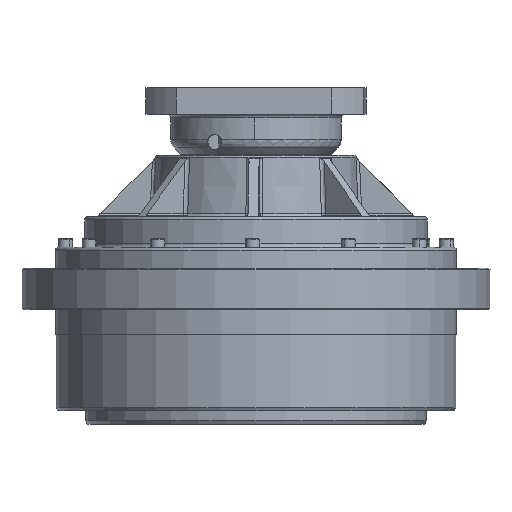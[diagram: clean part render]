
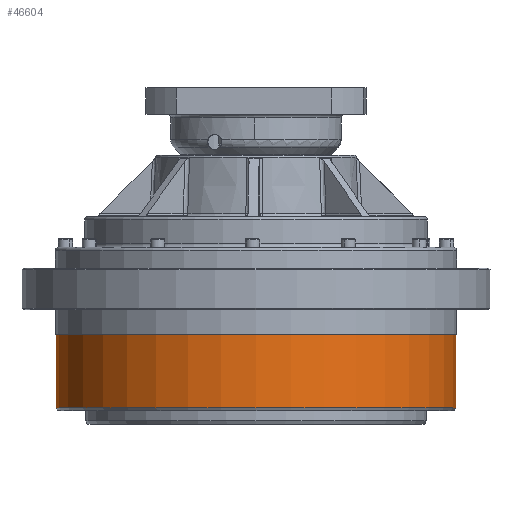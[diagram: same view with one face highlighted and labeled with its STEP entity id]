
A CAD part, front view. The second image highlights one B-rep face of the part: STEP entity #46604.
In plain terms, the highlighted cylindrical face has radius 119.65 mm (diameter 239.3 mm), a partial arc.
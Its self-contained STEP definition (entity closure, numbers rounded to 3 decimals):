
#5235 = DIRECTION ( 'NONE',  ( 1., 0., 0. ) ) ;
#10367 = ORIENTED_EDGE ( 'NONE', *, *, #84363, .F. ) ;
#12876 = CARTESIAN_POINT ( 'NONE',  ( 119.65, 0., -15. ) ) ;
#17663 = EDGE_LOOP ( 'NONE', ( #117883, #129248, #10367, #56061 ) ) ;
#18225 = VECTOR ( 'NONE', #77886, 1000. ) ;
#24031 = DIRECTION ( 'NONE',  ( 1., 0., 0. ) ) ;
#28377 = EDGE_CURVE ( 'NONE', #113989, #130192, #70719, .T. ) ;
#32839 = AXIS2_PLACEMENT_3D ( 'NONE', #43483, #133965, #24031 ) ;
#33649 = CIRCLE ( 'NONE', #88141, 119.65 ) ;
#35289 = VECTOR ( 'NONE', #138217, 1000. ) ;
#38630 = DIRECTION ( 'NONE',  ( 0., 0., 1. ) ) ;
#43483 = CARTESIAN_POINT ( 'NONE',  ( 0., 0., -15. ) ) ;
#46604 = ADVANCED_FACE ( 'NONE', ( #99846 ), #145080, .T. ) ;
#46977 = CIRCLE ( 'NONE', #72990, 119.65 ) ;
#49769 = CARTESIAN_POINT ( 'NONE',  ( 0., 0., -15. ) ) ;
#56061 = ORIENTED_EDGE ( 'NONE', *, *, #28377, .F. ) ;
#57962 = EDGE_CURVE ( 'NONE', #128583, #113989, #33649, .T. ) ;
#61089 = CARTESIAN_POINT ( 'NONE',  ( -119.65, 0., -15. ) ) ;
#63592 = DIRECTION ( 'NONE',  ( 1., 0., 0. ) ) ;
#64027 = VERTEX_POINT ( 'NONE', #135499 ) ;
#66010 = CARTESIAN_POINT ( 'NONE',  ( -119.65, 0., -15. ) ) ;
#66974 = CARTESIAN_POINT ( 'NONE',  ( 119.65, 0., -15. ) ) ;
#70719 = LINE ( 'NONE', #12876, #35289 ) ;
#72990 = AXIS2_PLACEMENT_3D ( 'NONE', #140028, #95578, #63592 ) ;
#73189 = EDGE_CURVE ( 'NONE', #128583, #64027, #101581, .T. ) ;
#77886 = DIRECTION ( 'NONE',  ( 0., 0., -1. ) ) ;
#84363 = EDGE_CURVE ( 'NONE', #130192, #64027, #46977, .T. ) ;
#88141 = AXIS2_PLACEMENT_3D ( 'NONE', #49769, #38630, #5235 ) ;
#95578 = DIRECTION ( 'NONE',  ( 0., 0., -1. ) ) ;
#99846 = FACE_OUTER_BOUND ( 'NONE', #17663, .T. ) ;
#101581 = LINE ( 'NONE', #66010, #18225 ) ;
#113989 = VERTEX_POINT ( 'NONE', #66974 ) ;
#116539 = CARTESIAN_POINT ( 'NONE',  ( 119.65, 0., -58.5 ) ) ;
#117883 = ORIENTED_EDGE ( 'NONE', *, *, #57962, .F. ) ;
#128583 = VERTEX_POINT ( 'NONE', #61089 ) ;
#129248 = ORIENTED_EDGE ( 'NONE', *, *, #73189, .T. ) ;
#130192 = VERTEX_POINT ( 'NONE', #116539 ) ;
#133965 = DIRECTION ( 'NONE',  ( 0., 0., -1. ) ) ;
#135499 = CARTESIAN_POINT ( 'NONE',  ( -119.65, 0., -58.5 ) ) ;
#138217 = DIRECTION ( 'NONE',  ( 0., 0., -1. ) ) ;
#140028 = CARTESIAN_POINT ( 'NONE',  ( 0., 0., -58.5 ) ) ;
#145080 = CYLINDRICAL_SURFACE ( 'NONE', #32839, 119.65 ) ;
